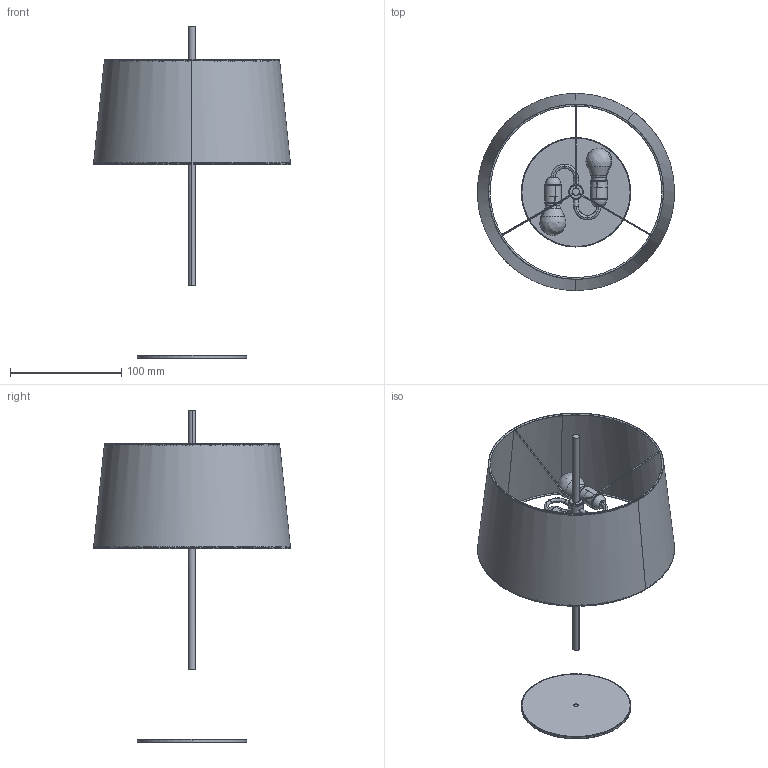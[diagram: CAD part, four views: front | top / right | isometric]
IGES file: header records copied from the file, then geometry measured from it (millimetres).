
Global section: file name: Diana; native system: Unknown; preprocessor: BodyObjectToATFToIges; author: Autodesk 3ds Max; organization: Autodesk; date: 20180117.125255; units: centimetre
Bounding box: 177.26 x 177.27 x 298.62 mm (x, y, z)
Volume: 22932 mm3; surface area: 144723.7 mm2
Topology: 5 solids, 5 shells, 218 faces, 970 edges, 856 vertices
Faces by surface type: bspline 132, revolution 86
